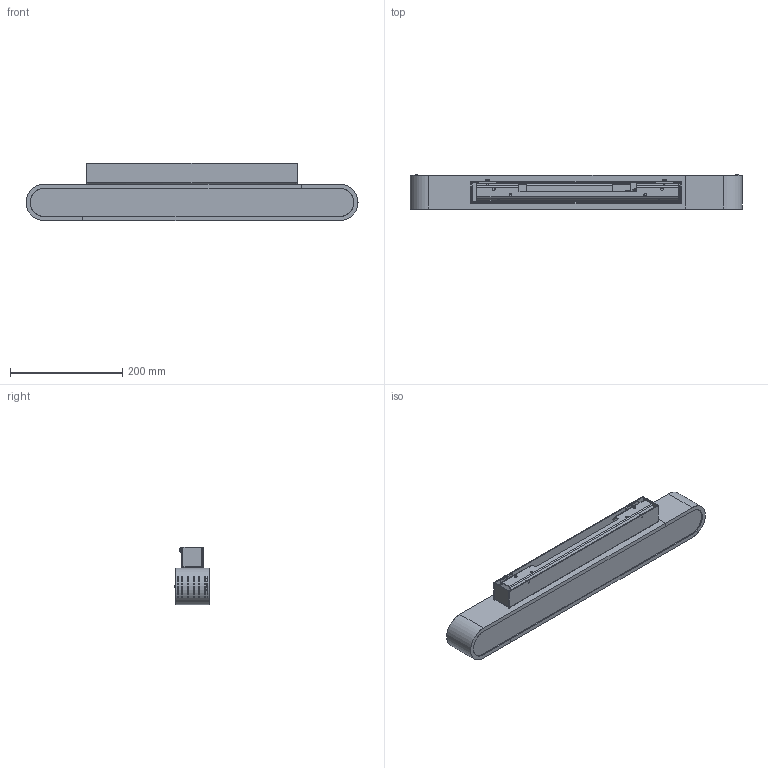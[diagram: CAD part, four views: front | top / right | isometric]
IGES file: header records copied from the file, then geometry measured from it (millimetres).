
Start section: SolidWorks IGES file using analytic representation for surfaces
Global section: file name: C:\Users\Asia\Desktop\SOFT\Soft_7005,7007\Soft_7005,7007.IGS; native system: SolidWorks 2016; preprocessor: SolidWorks 2016; author: Asia; date: 160829.151328; units: millimetre
Bounding box: 592 x 61 x 102.5 mm (x, y, z)
Surface area: 592244.4 mm2 (no closed solid volume)
Topology: 0 solids, 0 shells, 4390 faces, 34890 edges, 34846 vertices
Faces by surface type: bspline 3417, revolution 973
